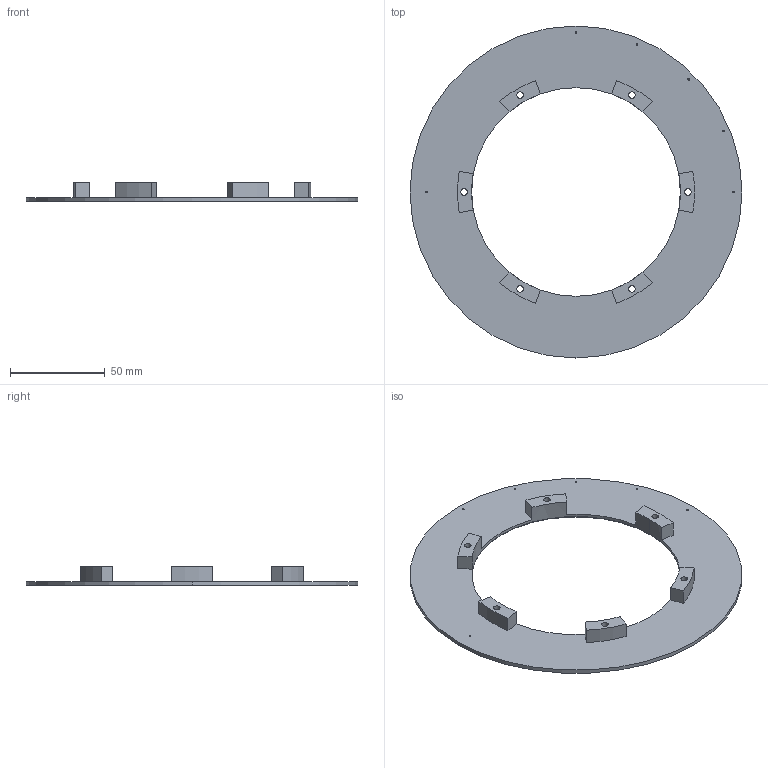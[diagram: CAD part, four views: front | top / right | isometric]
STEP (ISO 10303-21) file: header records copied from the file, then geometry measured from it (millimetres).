
FILE_DESCRIPTION (( 'STEP AP203' ), '1' );
FILE_NAME ('encoder.STEP', '2024-07-01T06:32:37', ( '' ), ( '' ), 'SwSTEP 2.0', 'SolidWorks 2021', '' );
FILE_SCHEMA (( 'CONFIG_CONTROL_DESIGN' ));
Length unit declared in the file: millimetre
Products named in the file (1): encoder
Bounding box: 175 x 175 x 10 mm (x, y, z)
Volume: 35822.5 mm3; surface area: 34026.6 mm2
Topology: 1 solids, 1 shells, 69 faces, 187 edges, 120 vertices
Faces by surface type: cylinder 35, plane 20, cone 12, torus 2
Entity records: 2336 total; most frequent: DIRECTION 425, CARTESIAN_POINT 377, ORIENTED_EDGE 374, EDGE_CURVE 187, AXIS2_PLACEMENT_3D 168, VERTEX_POINT 120, CIRCLE 98, EDGE_LOOP 95
